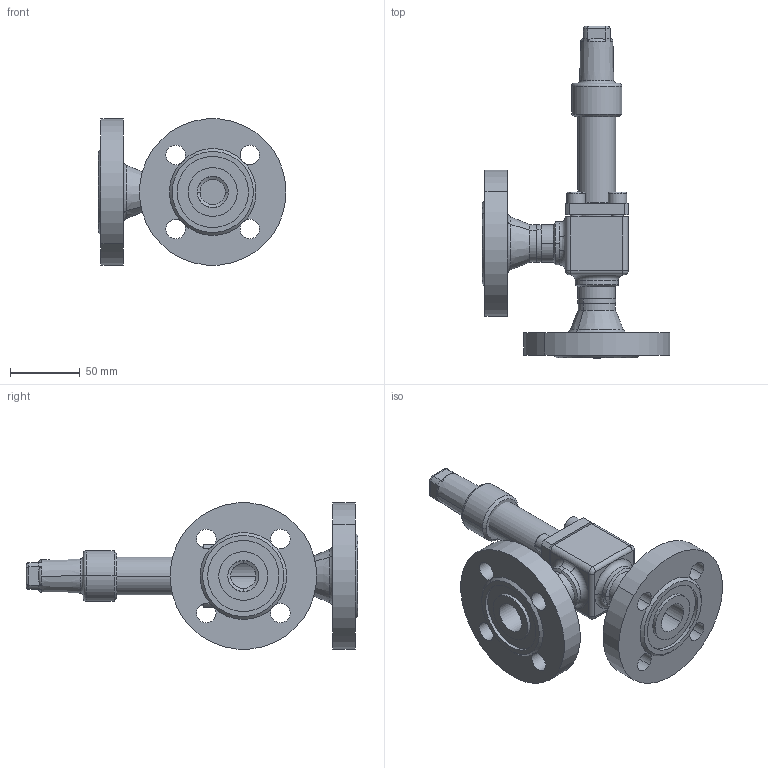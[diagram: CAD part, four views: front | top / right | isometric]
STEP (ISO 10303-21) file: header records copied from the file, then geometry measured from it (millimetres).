
FILE_DESCRIPTION (( 'STEP AP214' ), '1' );
FILE_NAME ('RVAK97420-DN020_DIN-FL-N_PS40.STEP', '2006-05-02T09:21:56', ( 'Herr Grams' ), ( 'AWP GmbH' ), 'SwSTEP 2.0', 'SolidWorks 2002296', '' );
FILE_SCHEMA (( 'AUTOMOTIVE_DESIGN' ));
Length unit declared in the file: millimetre
Products named in the file (10): RVAK97420-DN020_DIN-FL-N_PS40; Kappe96300E10_DN6-20_Standard; RVA99300E11_Deck+Schr-DN20_Standard; Deckel99300E11-DN20_PS40_Standard; Zylinderschraube-DIN912_M 8x 20; Geh-kpl96420E11-DN20_PS40_DIN-FL_Standard; Gehäuse96400E11-DN20_PS40_R1_Standard; Flansch-DIN2635-Nut_PS40_DIN-Flansch-DN020_PS40-Nut; bead964-DN020-2_Standard; bead964-DN020-1_Standard
Assembly tree (13 placements, depth 3):
  RVAK97420-DN020_DIN-FL-N_PS40
    RVA99300E11_Deck+Schr-DN20_Standard
      Deckel99300E11-DN20_PS40_Standard
      Zylinderschraube-DIN912_M 8x 20  x4
    Kappe96300E10_DN6-20_Standard
    Geh-kpl96420E11-DN20_PS40_DIN-FL_Standard
      Flansch-DIN2635-Nut_PS40_DIN-Flansch-DN020_PS40-Nut  x2
      bead964-DN020-2_Standard
      Gehäuse96400E11-DN20_PS40_R1_Standard
      bead964-DN020-1_Standard
Bounding box: 134.3 x 237.5 x 104.6 mm (x, y, z)
Volume: 433957.4 mm3; surface area: 104861.2 mm2
Topology: 11 solids, 11 shells, 307 faces, 711 edges, 438 vertices
Faces by surface type: cylinder 118, plane 92, cone 50, torus 36, bspline 11
Entity records: 11806 total; most frequent: CARTESIAN_POINT 5933, DIRECTION 1144, ORIENTED_EDGE 1030, EDGE_CURVE 515, AXIS2_PLACEMENT_3D 477, VERTEX_POINT 314, EDGE_LOOP 253, CIRCLE 249
